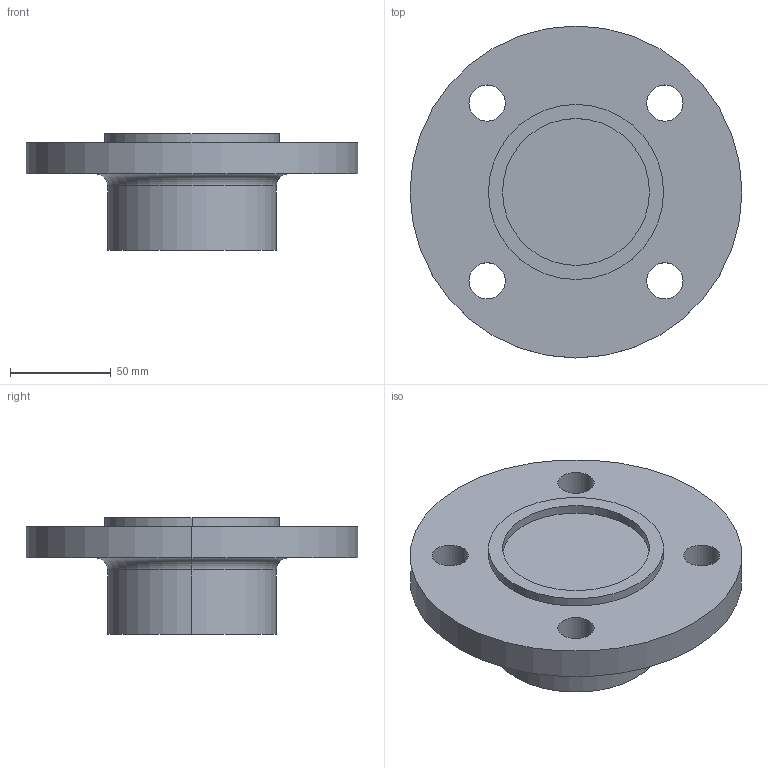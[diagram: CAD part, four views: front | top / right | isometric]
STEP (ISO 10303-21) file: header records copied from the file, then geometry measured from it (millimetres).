
FILE_DESCRIPTION (( 'STEP AP214' ), '1' );
FILE_NAME ('PN40 DN50 Type 21(i) - Type C Face.STEP', '2018-12-30T04:27:03', ( '' ), ( '' ), 'SwSTEP 2.0', 'SolidWorks 2019', '' );
FILE_SCHEMA (( 'AUTOMOTIVE_DESIGN' ));
Length unit declared in the file: millimetre
Products named in the file (1): PN40 DN50 Type 21(i) - Type C Face
Bounding box: 165 x 165 x 58 mm (x, y, z)
Volume: 536259 mm3; surface area: 63896.2 mm2
Topology: 1 solids, 1 shells, 23 faces, 52 edges, 34 vertices
Faces by surface type: cylinder 16, plane 5, torus 2
Entity records: 716 total; most frequent: DIRECTION 136, CARTESIAN_POINT 110, ORIENTED_EDGE 104, AXIS2_PLACEMENT_3D 60, EDGE_CURVE 52, CIRCLE 36, VERTEX_POINT 34, EDGE_LOOP 34
